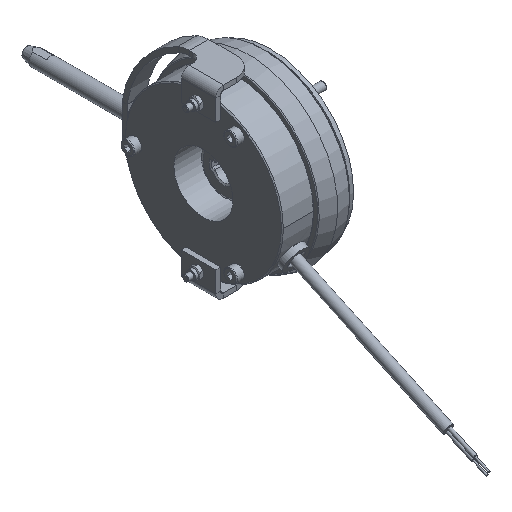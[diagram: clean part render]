
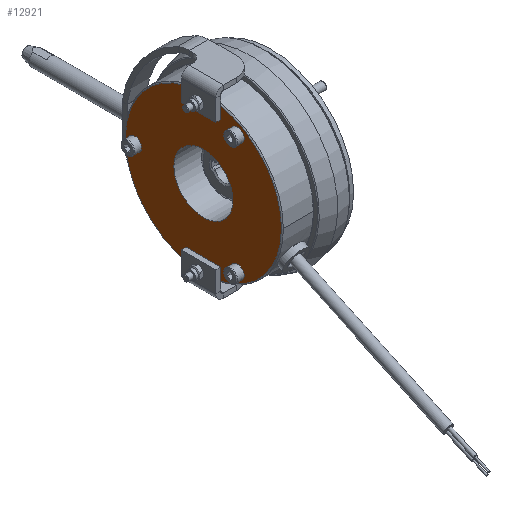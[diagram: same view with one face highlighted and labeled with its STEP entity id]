
A CAD part, isometric view. The second image highlights one B-rep face of the part: STEP entity #12921.
In plain terms, the highlighted planar face has unit normal (-1, 0, 0).
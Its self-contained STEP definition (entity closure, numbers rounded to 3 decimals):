
#258=FACE_BOUND('',#1880,.T.);
#259=FACE_BOUND('',#1881,.T.);
#260=FACE_BOUND('',#1882,.T.);
#261=FACE_BOUND('',#1883,.T.);
#464=PLANE('',#14111);
#1160=FACE_OUTER_BOUND('',#1879,.T.);
#1879=EDGE_LOOP('',(#10761,#10762,#10763,#10764,#10765,#10766,#10767,#10768,
#10769));
#1880=EDGE_LOOP('',(#10770,#10771));
#1881=EDGE_LOOP('',(#10772,#10773));
#1882=EDGE_LOOP('',(#10774,#10775));
#1883=EDGE_LOOP('',(#10776));
#2706=CIRCLE('',#13662,3.5);
#2707=CIRCLE('',#13663,3.5);
#2720=CIRCLE('',#13690,3.5);
#2721=CIRCLE('',#13691,3.5);
#2734=CIRCLE('',#13718,3.5);
#2735=CIRCLE('',#13719,3.5);
#2935=CIRCLE('',#14105,41.);
#2936=CIRCLE('',#14106,41.);
#2937=CIRCLE('',#14107,41.);
#2940=CIRCLE('',#14112,15.5);
#3598=LINE('',#26498,#4331);
#3604=LINE('',#26515,#4337);
#3608=LINE('',#26521,#4341);
#3619=LINE('',#26550,#4352);
#3626=LINE('',#26566,#4359);
#3628=LINE('',#26569,#4361);
#4331=VECTOR('',#16608,10.);
#4337=VECTOR('',#16628,10.);
#4341=VECTOR('',#16634,10.);
#4352=VECTOR('',#16663,10.);
#4359=VECTOR('',#16680,10.);
#4361=VECTOR('',#16684,10.);
#5254=VERTEX_POINT('',#25558);
#5255=VERTEX_POINT('',#25559);
#5281=VERTEX_POINT('',#25650);
#5282=VERTEX_POINT('',#25651);
#5308=VERTEX_POINT('',#25742);
#5309=VERTEX_POINT('',#25743);
#5480=VERTEX_POINT('',#26440);
#5481=VERTEX_POINT('',#26441);
#5501=VERTEX_POINT('',#26495);
#5502=VERTEX_POINT('',#26497);
#5503=VERTEX_POINT('',#26501);
#5506=VERTEX_POINT('',#26514);
#5516=VERTEX_POINT('',#26549);
#5520=VERTEX_POINT('',#26564);
#5604=VERTEX_POINT('',#26898);
#5607=VERTEX_POINT('',#26910);
#6845=EDGE_CURVE('',#5254,#5255,#2706,.T.);
#6846=EDGE_CURVE('',#5255,#5254,#2707,.T.);
#6882=EDGE_CURVE('',#5281,#5282,#2720,.T.);
#6883=EDGE_CURVE('',#5282,#5281,#2721,.T.);
#6919=EDGE_CURVE('',#5308,#5309,#2734,.T.);
#6920=EDGE_CURVE('',#5309,#5308,#2735,.T.);
#7191=EDGE_CURVE('',#5502,#5501,#3598,.T.);
#7200=EDGE_CURVE('',#5506,#5503,#3604,.T.);
#7204=EDGE_CURVE('',#5501,#5506,#3608,.T.);
#7218=EDGE_CURVE('',#5516,#5480,#3619,.T.);
#7227=EDGE_CURVE('',#5481,#5520,#3626,.T.);
#7229=EDGE_CURVE('',#5520,#5516,#3628,.T.);
#7373=EDGE_CURVE('',#5604,#5503,#2935,.T.);
#7374=EDGE_CURVE('',#5502,#5480,#2936,.T.);
#7375=EDGE_CURVE('',#5481,#5604,#2937,.T.);
#7379=EDGE_CURVE('',#5607,#5607,#2940,.T.);
#10761=ORIENTED_EDGE('',*,*,#7200,.T.);
#10762=ORIENTED_EDGE('',*,*,#7373,.F.);
#10763=ORIENTED_EDGE('',*,*,#7375,.F.);
#10764=ORIENTED_EDGE('',*,*,#7227,.T.);
#10765=ORIENTED_EDGE('',*,*,#7229,.T.);
#10766=ORIENTED_EDGE('',*,*,#7218,.T.);
#10767=ORIENTED_EDGE('',*,*,#7374,.F.);
#10768=ORIENTED_EDGE('',*,*,#7191,.T.);
#10769=ORIENTED_EDGE('',*,*,#7204,.T.);
#10770=ORIENTED_EDGE('',*,*,#6845,.T.);
#10771=ORIENTED_EDGE('',*,*,#6846,.T.);
#10772=ORIENTED_EDGE('',*,*,#6882,.T.);
#10773=ORIENTED_EDGE('',*,*,#6883,.T.);
#10774=ORIENTED_EDGE('',*,*,#6919,.T.);
#10775=ORIENTED_EDGE('',*,*,#6920,.T.);
#10776=ORIENTED_EDGE('',*,*,#7379,.T.);
#12921=ADVANCED_FACE('',(#1160,#258,#259,#260,#261),#464,.T.);
#13662=AXIS2_PLACEMENT_3D('',#25560,#15925,#15926);
#13663=AXIS2_PLACEMENT_3D('',#25561,#15927,#15928);
#13690=AXIS2_PLACEMENT_3D('',#25652,#15997,#15998);
#13691=AXIS2_PLACEMENT_3D('',#25653,#15999,#16000);
#13718=AXIS2_PLACEMENT_3D('',#25744,#16069,#16070);
#13719=AXIS2_PLACEMENT_3D('',#25745,#16071,#16072);
#14105=AXIS2_PLACEMENT_3D('',#26900,#17035,#17036);
#14106=AXIS2_PLACEMENT_3D('',#26901,#17037,#17038);
#14107=AXIS2_PLACEMENT_3D('',#26902,#17039,#17040);
#14111=AXIS2_PLACEMENT_3D('',#26909,#17048,#17049);
#14112=AXIS2_PLACEMENT_3D('',#26911,#17050,#17051);
#15925=DIRECTION('center_axis',(1.,0.,0.));
#15926=DIRECTION('ref_axis',(0.,1.,0.));
#15927=DIRECTION('center_axis',(1.,0.,0.));
#15928=DIRECTION('ref_axis',(0.,1.,0.));
#15997=DIRECTION('center_axis',(1.,0.,0.));
#15998=DIRECTION('ref_axis',(0.,1.,0.));
#15999=DIRECTION('center_axis',(1.,0.,0.));
#16000=DIRECTION('ref_axis',(0.,1.,0.));
#16069=DIRECTION('center_axis',(1.,0.,0.));
#16070=DIRECTION('ref_axis',(0.,1.,0.));
#16071=DIRECTION('center_axis',(1.,0.,0.));
#16072=DIRECTION('ref_axis',(0.,1.,0.));
#16608=DIRECTION('',(0.,0.,-1.));
#16628=DIRECTION('',(0.,0.,1.));
#16634=DIRECTION('',(0.,1.,0.));
#16663=DIRECTION('',(0.,0.,-1.));
#16680=DIRECTION('',(0.,0.,1.));
#16684=DIRECTION('',(0.,-1.,0.));
#17035=DIRECTION('center_axis',(1.,0.,0.));
#17036=DIRECTION('ref_axis',(0.,-1.,0.));
#17037=DIRECTION('center_axis',(1.,0.,0.));
#17038=DIRECTION('ref_axis',(0.,-1.,0.));
#17039=DIRECTION('center_axis',(1.,0.,0.));
#17040=DIRECTION('ref_axis',(0.,-1.,0.));
#17048=DIRECTION('center_axis',(-1.,0.,0.));
#17049=DIRECTION('ref_axis',(0.,0.,1.));
#17050=DIRECTION('center_axis',(1.,0.,0.));
#17051=DIRECTION('ref_axis',(0.,0.,1.));
#25558=CARTESIAN_POINT('',(-18.7,-14.5,31.177));
#25559=CARTESIAN_POINT('',(-18.7,-21.5,31.177));
#25560=CARTESIAN_POINT('Origin',(-18.7,-18.,31.177));
#25561=CARTESIAN_POINT('Origin',(-18.7,-18.,31.177));
#25650=CARTESIAN_POINT('',(-18.7,-14.5,-31.177));
#25651=CARTESIAN_POINT('',(-18.7,-21.5,-31.177));
#25652=CARTESIAN_POINT('Origin',(-18.7,-18.,-31.177));
#25653=CARTESIAN_POINT('Origin',(-18.7,-18.,-31.177));
#25742=CARTESIAN_POINT('',(-18.7,39.5,0.));
#25743=CARTESIAN_POINT('',(-18.7,32.5,0.));
#25744=CARTESIAN_POINT('Origin',(-18.7,36.,0.));
#25745=CARTESIAN_POINT('Origin',(-18.7,36.,0.));
#26440=CARTESIAN_POINT('',(-18.7,-9.,-40.));
#26441=CARTESIAN_POINT('',(-18.7,9.,-40.));
#26495=CARTESIAN_POINT('',(-18.7,-9.,33.5));
#26497=CARTESIAN_POINT('',(-18.7,-9.,40.));
#26498=CARTESIAN_POINT('',(-18.7,-9.,22.25));
#26501=CARTESIAN_POINT('',(-18.7,9.,40.));
#26514=CARTESIAN_POINT('',(-18.7,9.,33.5));
#26515=CARTESIAN_POINT('',(-18.7,9.,22.25));
#26521=CARTESIAN_POINT('',(-18.7,14.875,33.5));
#26549=CARTESIAN_POINT('',(-18.7,-9.,-33.5));
#26550=CARTESIAN_POINT('',(-18.7,-9.,-22.25));
#26564=CARTESIAN_POINT('',(-18.7,9.,-33.5));
#26566=CARTESIAN_POINT('',(-18.7,9.,-22.25));
#26569=CARTESIAN_POINT('',(-18.7,14.875,-33.5));
#26898=CARTESIAN_POINT('',(-18.7,41.,0.));
#26900=CARTESIAN_POINT('Origin',(-18.7,0.,0.));
#26901=CARTESIAN_POINT('Origin',(-18.7,0.,0.));
#26902=CARTESIAN_POINT('Origin',(-18.7,0.,0.));
#26909=CARTESIAN_POINT('Origin',(-18.7,20.75,0.));
#26910=CARTESIAN_POINT('',(-18.7,0.,-15.5));
#26911=CARTESIAN_POINT('Origin',(-18.7,0.,0.));
